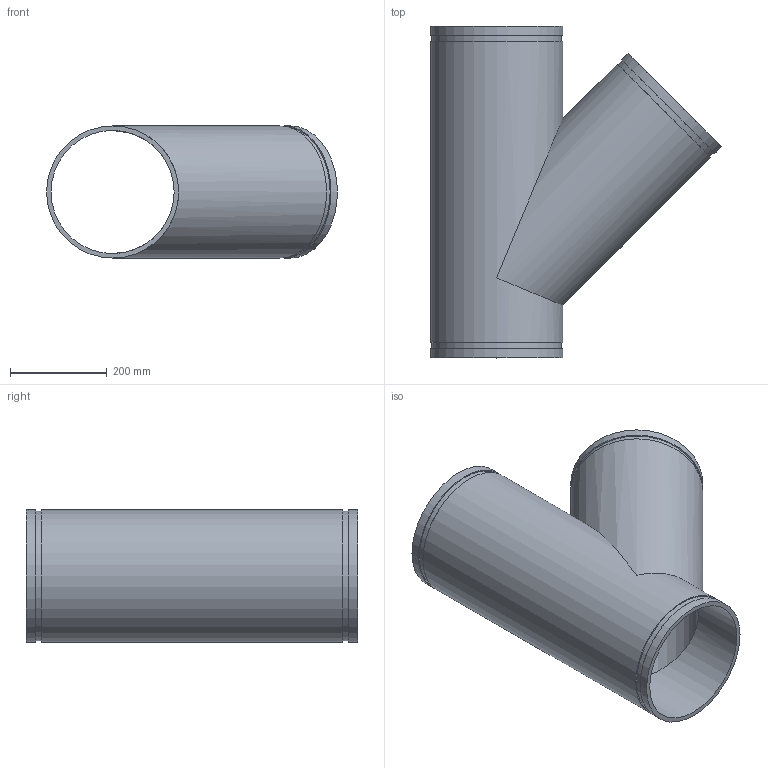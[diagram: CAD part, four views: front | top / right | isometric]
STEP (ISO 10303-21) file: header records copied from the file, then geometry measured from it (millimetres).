
FILE_DESCRIPTION(/* description */ ('VIC 45 DEG FABRICATED LATERAL No 30 SWS (OGS)','CAx-IF Rec.Pracs.---Representation and Presentation of Product Manufacturing Information (PMI)---4.0---2014-10-13'),/* implementation_level */ '2;1');
FILE_NAME(/* name */ 'C:\Users\kkamble\AppData\Roaming\Autodesk\ApplicationPlugins\Back Up\Victaulic_IPS_Lateral 45 Deg_No 30 SWS (OGS)\Victaulic_IPS_Lateral 45 Deg_No 30 SWS (OGS)_10 (250).stp',/* time_stamp */ '2020-09-16T22:21:05+06:00',/* author */ ('cgray'),/* organization */ ('Victaulic'),/* preprocessor_version */ 'ST-DEVELOPER v17.2',/* originating_system */ 'Autodesk Inventor 2019',/* authorisation */ '');
FILE_SCHEMA (('AP242_MANAGED_MODEL_BASED_3D_ENGINEERING_MIM_LF { 1 0 10303 442 1 1 4 }'));
Length unit declared in the file: inch
Products named in the file (1): 30 SWS-10.0
Bounding box: 601.25 x 685.8 x 273.05 mm (x, y, z)
Volume: 7366602.2 mm3; surface area: 1640191.1 mm2
Topology: 1 solids, 1 shells, 19 faces, 45 edges, 34 vertices
Faces by surface type: cylinder 10, plane 9
Full cylindrical faces by diameter (mm): 254.508 x2, 268.275 x3, 273.05 x5
Entity records: 748 total; most frequent: DIRECTION 145, CARTESIAN_POINT 116, ORIENTED_EDGE 90, AXIS2_PLACEMENT_3D 67, EDGE_CURVE 45, VERTEX_POINT 34, EDGE_LOOP 29, CIRCLE 27
